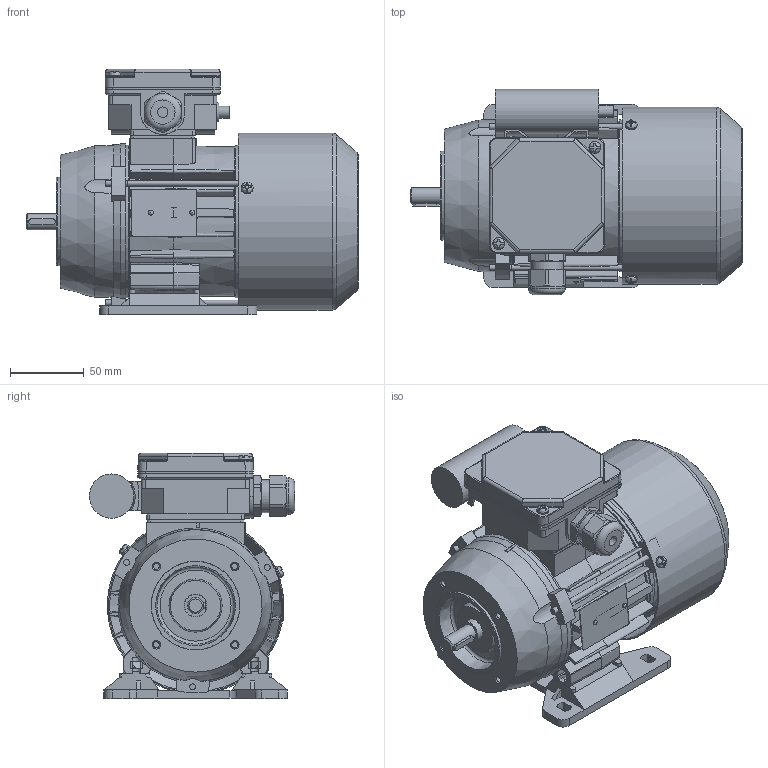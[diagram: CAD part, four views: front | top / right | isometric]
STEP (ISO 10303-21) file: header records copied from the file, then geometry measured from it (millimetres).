
FILE_DESCRIPTION( ( 'Unknown' ), '1' );
FILE_NAME( 'G:/Poczta Tk-1/STP/w.m.63/SEh63/SE(M)Lh63-C2.stp', 'Unknown', ( 'K. Szlosek' ), ( 'BESEL S.A.' ), 'PSStep 17.0.49', 'Unknown', ' ' );
FILE_SCHEMA( ( 'AUTOMOTIVE_DESIGN { 1 0 10303 214 1 1 1 1 }' ) );
Length unit declared in the file: millimetre
Products named in the file (33): Assem1; K3-9973 Kadłub ze stojanem wykończonym Sh63-C; K3-5320 Tarcza łożyskowa P Sg63; K4-2320 Uszczelka nr 1 Sh71,80; Wpust A4x4x18; K3-5321 osłona przewietrznika Sg63; K4-2820 Uszczelka nr 2 Sh71,80; K2-0860 Pokrywka skrzynki zaciskowej; Wkręt samogwintujący M4x16; K4-0898 Tulejka uszczelniająca; Kondensator zb 8-10uF; K2-1769 Przewietrznik Sg63; Wkręt samogwintujący M4x8; K1-1107 Łapa Sg63-.. w. robocza; K3-9974 wał Sh63-C standard; K3-9440 Podstawa  skrzynki zaciskowej SEhR71-D; K3-1974 Uchwyt kondensatora (mały); K1-1112 Tarcza kołnierzowa B14_2 SKg63-..2; Nitokołek A 2x6; Dławnica M20x1,5; Łożysko 6202; Śruba ściągająca E_M4x100; Tabliczka znamionowa 32x44
Assembly tree (49 placements, depth 2):
  Assem1
    K3-9973 Kadłub ze stojanem wykończonym Sh63-C
    K3-5320 Tarcza łożyskowa P Sg63
    K4-2320 Uszczelka nr 1 Sh71,80
    Wpust A4x4x18
    K3-5321 osłona przewietrznika Sg63
    K4-2820 Uszczelka nr 2 Sh71,80
    K2-0860 Pokrywka skrzynki zaciskowej
    Wkręt samogwintujący M4x16  x2
    K4-0898 Tulejka uszczelniająca
    Kondensator zb 8-10uF
    K2-1769 Przewietrznik Sg63
    Wkręt samogwintujący M4x8  x3
    K1-1107 Łapa Sg63-.. w. robocza
    K3-9974 wał Sh63-C standard
    K3-9440 Podstawa  skrzynki zaciskowej SEhR71-D
    K3-1974 Uchwyt kondensatora (mały)
    K1-1112 Tarcza kołnierzowa B14_2 SKg63-..2
    Nitokołek A 2x6  x2
    Dławnica M20x1,5
    Łożysko 6202  x2
    Łożysko 6202  x2
    Łożysko 6202  x2
    Łożysko 6202  x2
    Łożysko 6202  x2
    Łożysko 6202  x2
    Łożysko 6202  x2
    Łożysko 6202  x2
    Łożysko 6202  x2
    Łożysko 6202  x2
    Łożysko 6202  x2
    Śruba ściągająca E_M4x100  x3
    Tabliczka znamionowa 32x44
Bounding box: 224.5 x 138.82 x 166 mm (x, y, z)
Volume: 626636.6 mm3; surface area: 385260.1 mm2
Topology: 49 solids, 67 shells, 2059 faces, 5655 edges, 3675 vertices
Faces by surface type: plane 1047, cylinder 613, cone 142, torus 120, bspline 98, sphere 39
Full cylindrical faces by diameter (mm): 2 x2, 2.4 x2, 3 x1, 3.242 x3, 3.5 x2, 3.7 x10, 4 x8, 4.134 x4, 4.5 x4, 4.6 x1, 4.8 x4, 5 x4, 5.8 x4, 6.5 x1, 7 x4, 8 x7, 10 x2, 11 x1, 12.9 x1, 13.1 x1, 13.5 x1, 15 x4, 15.4 x2, 18.38 x1, 18.5 x1, 19 x2, 19.5 x1, 20 x2, 20.1 x1, 21.52 x4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
Entity records: 88601 total; most frequent: CARTESIAN_POINT 26996, ORIENTED_EDGE 9834, DIRECTION 9476, EDGE_CURVE 4917, AXIS2_PLACEMENT_3D 3495, VERTEX_POINT 3347, LINE 2486, VECTOR 2486
